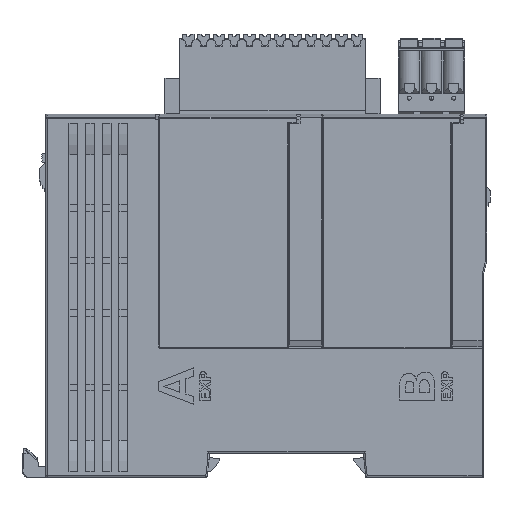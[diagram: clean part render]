
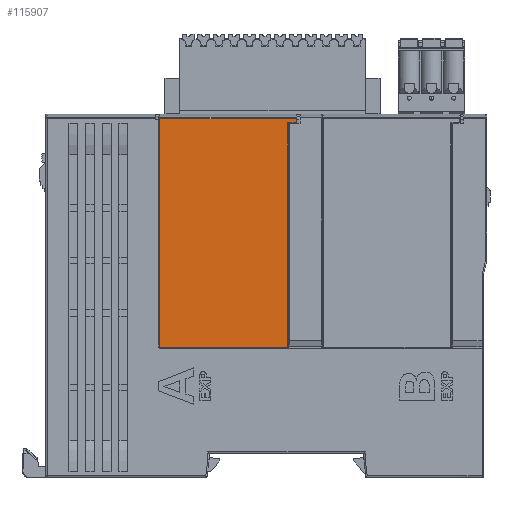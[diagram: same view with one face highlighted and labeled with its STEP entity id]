
A CAD part, left-side view. The second image highlights one B-rep face of the part: STEP entity #115907.
In plain terms, the highlighted planar face has unit normal (-1, 0, 0).
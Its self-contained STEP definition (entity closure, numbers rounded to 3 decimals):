
#26595=CARTESIAN_POINT('',(0.,-7.25,80.975));
#26623=DIRECTION('',(0.,0.,1.));
#26624=VECTOR('',#26623,51.167);
#26625=CARTESIAN_POINT('',(0.,-5.25,29.808));
#26626=LINE('',#26625,#26624);
#27208=DIRECTION('',(0.,0.,-1.));
#27209=VECTOR('',#27208,0.979);
#27210=CARTESIAN_POINT('',(0.,-7.25,81.954));
#27211=LINE('',#27210,#27209);
#27212=DIRECTION('',(0.,1.,0.));
#27213=VECTOR('',#27212,2.);
#27214=CARTESIAN_POINT('',(0.,-7.25,80.975));
#27215=LINE('',#27214,#27213);
#27216=CARTESIAN_POINT('',(0.,-5.25,29.808));
#27217=CARTESIAN_POINT('',(0.,-5.25,29.803));
#27218=CARTESIAN_POINT('',(0.,-5.249,29.793));
#27219=CARTESIAN_POINT('',(0.,-5.247,29.777));
#27220=CARTESIAN_POINT('',(0.,-5.243,29.762));
#27221=CARTESIAN_POINT('',(0.,-5.237,29.747));
#27222=CARTESIAN_POINT('',(0.,-5.23,29.733));
#27223=CARTESIAN_POINT('',(0.,-5.221,29.72));
#27224=CARTESIAN_POINT('',(0.,-5.212,29.707));
#27225=CARTESIAN_POINT('',(0.,-5.2,29.696));
#27226=CARTESIAN_POINT('',(0.,-5.188,29.686));
#27227=CARTESIAN_POINT('',(0.,-5.175,29.678));
#27228=CARTESIAN_POINT('',(0.,-5.161,29.671));
#27229=CARTESIAN_POINT('',(0.,-5.146,29.665));
#27230=CARTESIAN_POINT('',(0.,-5.131,29.661));
#27231=CARTESIAN_POINT('',(0.,-5.116,29.659));
#27232=CARTESIAN_POINT('',(0.,-5.105,29.658));
#27233=CARTESIAN_POINT('',(0.,-5.1,29.658));
#27235=DIRECTION('',(0.,1.,0.));
#27236=VECTOR('',#27235,28.9);
#27237=CARTESIAN_POINT('',(0.,-5.1,29.658));
#27238=LINE('',#27237,#27236);
#27239=CARTESIAN_POINT('',(0.,23.8,29.658));
#27240=CARTESIAN_POINT('',(0.,23.805,29.658));
#27241=CARTESIAN_POINT('',(0.,23.816,29.659));
#27242=CARTESIAN_POINT('',(0.,23.831,29.661));
#27243=CARTESIAN_POINT('',(0.,23.846,29.665));
#27244=CARTESIAN_POINT('',(0.,23.861,29.671));
#27245=CARTESIAN_POINT('',(0.,23.875,29.678));
#27246=CARTESIAN_POINT('',(0.,23.888,29.687));
#27247=CARTESIAN_POINT('',(0.,23.901,29.696));
#27248=CARTESIAN_POINT('',(0.,23.912,29.708));
#27249=CARTESIAN_POINT('',(0.,23.922,29.72));
#27250=CARTESIAN_POINT('',(0.,23.93,29.733));
#27251=CARTESIAN_POINT('',(0.,23.937,29.747));
#27252=CARTESIAN_POINT('',(0.,23.943,29.762));
#27253=CARTESIAN_POINT('',(0.,23.947,29.777));
#27254=CARTESIAN_POINT('',(0.,23.949,29.793));
#27255=CARTESIAN_POINT('',(0.,23.95,29.803));
#27256=CARTESIAN_POINT('',(0.,23.95,29.808));
#27258=DIRECTION('',(0.,0.,1.));
#27259=VECTOR('',#27258,52.146);
#27260=CARTESIAN_POINT('',(0.,23.95,29.808));
#27261=LINE('',#27260,#27259);
#27262=DIRECTION('',(0.,-1.,0.));
#27263=VECTOR('',#27262,31.2);
#27264=CARTESIAN_POINT('',(0.,23.95,81.954));
#27265=LINE('',#27264,#27263);
#77797=CARTESIAN_POINT('',(0.,23.95,29.808));
#77798=CARTESIAN_POINT('',(0.,23.95,81.954));
#77799=VERTEX_POINT('',#77797);
#77800=VERTEX_POINT('',#77798);
#77825=CARTESIAN_POINT('',(0.,-7.25,81.954));
#77826=VERTEX_POINT('',#77825);
#77830=VERTEX_POINT('',#27239);
#77833=CARTESIAN_POINT('',(0.,-5.1,29.658));
#77834=VERTEX_POINT('',#77833);
#77835=VERTEX_POINT('',#27216);
#77846=VERTEX_POINT('',#26595);
#77848=CARTESIAN_POINT('',(0.,-5.25,80.975));
#77849=VERTEX_POINT('',#77848);
#115888=CARTESIAN_POINT('',(0.,9.35,57.));
#115889=DIRECTION('',(1.,0.,0.));
#115890=DIRECTION('',(0.,1.,0.));
#115891=AXIS2_PLACEMENT_3D('',#115888,#115889,#115890);
#115892=PLANE('',#115891);
#115893=ORIENTED_EDGE('',*,*,#115881,.T.);
#115894=ORIENTED_EDGE('',*,*,#115134,.T.);
#115895=ORIENTED_EDGE('',*,*,#115153,.F.);
#115896=ORIENTED_EDGE('',*,*,#115227,.T.);
#115898=ORIENTED_EDGE('',*,*,#115897,.T.);
#115900=ORIENTED_EDGE('',*,*,#115899,.T.);
#115902=ORIENTED_EDGE('',*,*,#115901,.T.);
#115904=ORIENTED_EDGE('',*,*,#115903,.T.);
#115905=EDGE_LOOP('',(#115893,#115894,#115895,#115896,#115898,#115900,#115902,
#115904));
#115906=FACE_OUTER_BOUND('',#115905,.F.);
#27234=B_SPLINE_CURVE_WITH_KNOTS('',3,(#27216,#27217,#27218,#27219,#27220,
#27221,#27222,#27223,#27224,#27225,#27226,#27227,#27228,#27229,#27230,#27231,
#27232,#27233),.UNSPECIFIED.,.F.,.F.,(4,1,1,1,1,1,1,1,1,1,1,1,1,1,1,4),(0.,
0.067,0.133,0.2,0.267,0.333,
0.4,0.467,0.533,0.6,0.667,
0.733,0.8,0.867,0.933,1.),
.UNSPECIFIED.);
#27257=B_SPLINE_CURVE_WITH_KNOTS('',3,(#27239,#27240,#27241,#27242,#27243,
#27244,#27245,#27246,#27247,#27248,#27249,#27250,#27251,#27252,#27253,#27254,
#27255,#27256),.UNSPECIFIED.,.F.,.F.,(4,1,1,1,1,1,1,1,1,1,1,1,1,1,1,4),(0.,
0.067,0.133,0.2,0.267,0.333,
0.4,0.467,0.533,0.6,0.667,
0.733,0.8,0.867,0.933,1.),
.UNSPECIFIED.);
#115134=EDGE_CURVE('',#77846,#77849,#27215,.T.);
#115153=EDGE_CURVE('',#77835,#77849,#26626,.T.);
#115227=EDGE_CURVE('',#77835,#77834,#27234,.T.);
#115881=EDGE_CURVE('',#77826,#77846,#27211,.T.);
#115897=EDGE_CURVE('',#77834,#77830,#27238,.T.);
#115899=EDGE_CURVE('',#77830,#77799,#27257,.T.);
#115901=EDGE_CURVE('',#77799,#77800,#27261,.T.);
#115903=EDGE_CURVE('',#77800,#77826,#27265,.T.);
#115907=ADVANCED_FACE('',(#115906),#115892,.F.);
